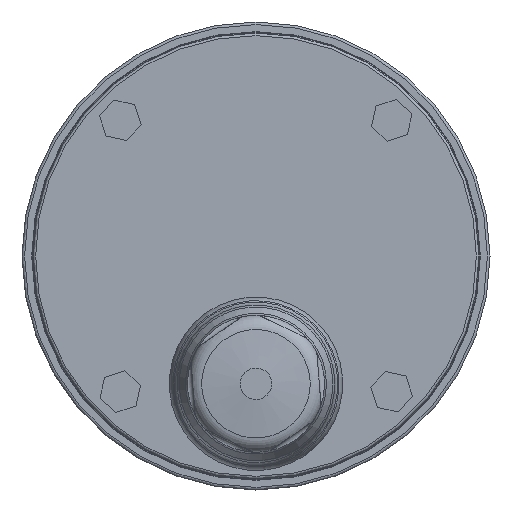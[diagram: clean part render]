
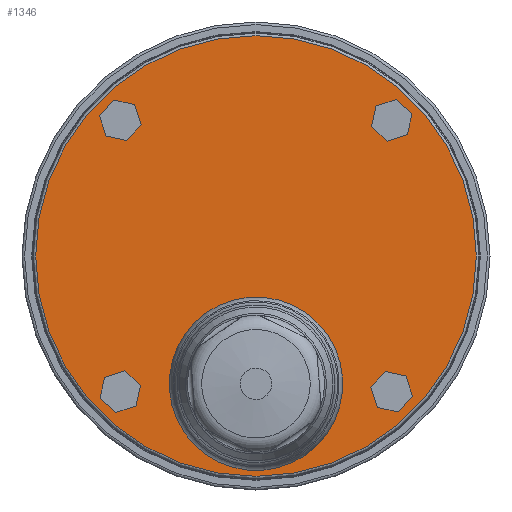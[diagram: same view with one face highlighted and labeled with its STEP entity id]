
A CAD part, front view. The second image highlights one B-rep face of the part: STEP entity #1346.
In plain terms, the highlighted planar face has unit normal (0, -1, 0).
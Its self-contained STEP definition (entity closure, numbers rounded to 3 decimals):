
#151=CARTESIAN_POINT('',(10.,41.245,-24.3));
#152=VERTEX_POINT('',#151);
#153=CARTESIAN_POINT('',(0.,41.245,-24.3));
#154=DIRECTION('',(0.0,1.0,0.0));
#155=DIRECTION('',(1.0,0.0,0.0));
#156=AXIS2_PLACEMENT_3D('',#153,#154,#155);
#157=CIRCLE('',#156,10.0);
#158=EDGE_CURVE('',#152,#152,#157,.T.);
#198=CARTESIAN_POINT('',(27.07,41.245,-29.649));
#199=VERTEX_POINT('',#198);
#206=CARTESIAN_POINT('',(29.765,41.245,-26.638));
#207=VERTEX_POINT('',#206);
#208=CARTESIAN_POINT('',(29.765,41.245,-26.638));
#209=DIRECTION('',(-0.667,0.0,-0.745));
#210=VECTOR('',#209,4.041);
#211=LINE('',#208,#210);
#212=EDGE_CURVE('',#207,#199,#211,.T.);
#236=CARTESIAN_POINT('',(23.114,41.245,-28.821));
#237=VERTEX_POINT('',#236);
#244=CARTESIAN_POINT('',(27.07,41.245,-29.649));
#245=DIRECTION('',(-0.979,0.0,0.205));
#246=VECTOR('',#245,4.041);
#247=LINE('',#244,#246);
#248=EDGE_CURVE('',#199,#237,#247,.T.);
#267=CARTESIAN_POINT('',(21.854,41.245,-24.981));
#268=VERTEX_POINT('',#267);
#275=CARTESIAN_POINT('',(23.114,41.245,-28.821));
#276=DIRECTION('',(-0.312,0.0,0.95));
#277=VECTOR('',#276,4.041);
#278=LINE('',#275,#277);
#279=EDGE_CURVE('',#237,#268,#278,.T.);
#298=CARTESIAN_POINT('',(24.549,41.245,-21.97));
#299=VERTEX_POINT('',#298);
#306=CARTESIAN_POINT('',(21.854,41.245,-24.981));
#307=DIRECTION('',(0.667,0.0,0.745));
#308=VECTOR('',#307,4.041);
#309=LINE('',#306,#308);
#310=EDGE_CURVE('',#268,#299,#309,.T.);
#329=CARTESIAN_POINT('',(28.505,41.245,-22.798));
#330=VERTEX_POINT('',#329);
#337=CARTESIAN_POINT('',(24.549,41.245,-21.97));
#338=DIRECTION('',(0.979,0.0,-0.205));
#339=VECTOR('',#338,4.041);
#340=LINE('',#337,#339);
#341=EDGE_CURVE('',#299,#330,#340,.T.);
#359=CARTESIAN_POINT('',(28.505,41.245,-22.798));
#360=DIRECTION('',(0.312,0.0,-0.95));
#361=VECTOR('',#360,4.041);
#362=LINE('',#359,#361);
#363=EDGE_CURVE('',#330,#207,#362,.T.);
#398=CARTESIAN_POINT('',(-29.649,41.245,-27.07));
#399=VERTEX_POINT('',#398);
#406=CARTESIAN_POINT('',(-26.638,41.245,-29.765));
#407=VERTEX_POINT('',#406);
#408=CARTESIAN_POINT('',(-26.638,41.245,-29.765));
#409=DIRECTION('',(-0.745,0.0,0.667));
#410=VECTOR('',#409,4.041);
#411=LINE('',#408,#410);
#412=EDGE_CURVE('',#407,#399,#411,.T.);
#436=CARTESIAN_POINT('',(-28.821,41.245,-23.114));
#437=VERTEX_POINT('',#436);
#444=CARTESIAN_POINT('',(-29.649,41.245,-27.07));
#445=DIRECTION('',(0.205,0.0,0.979));
#446=VECTOR('',#445,4.041);
#447=LINE('',#444,#446);
#448=EDGE_CURVE('',#399,#437,#447,.T.);
#467=CARTESIAN_POINT('',(-24.981,41.245,-21.854));
#468=VERTEX_POINT('',#467);
#475=CARTESIAN_POINT('',(-28.821,41.245,-23.114));
#476=DIRECTION('',(0.95,0.0,0.312));
#477=VECTOR('',#476,4.041);
#478=LINE('',#475,#477);
#479=EDGE_CURVE('',#437,#468,#478,.T.);
#498=CARTESIAN_POINT('',(-21.97,41.245,-24.549));
#499=VERTEX_POINT('',#498);
#506=CARTESIAN_POINT('',(-24.981,41.245,-21.854));
#507=DIRECTION('',(0.745,0.0,-0.667));
#508=VECTOR('',#507,4.041);
#509=LINE('',#506,#508);
#510=EDGE_CURVE('',#468,#499,#509,.T.);
#529=CARTESIAN_POINT('',(-22.798,41.245,-28.505));
#530=VERTEX_POINT('',#529);
#537=CARTESIAN_POINT('',(-21.97,41.245,-24.549));
#538=DIRECTION('',(-0.205,0.0,-0.979));
#539=VECTOR('',#538,4.041);
#540=LINE('',#537,#539);
#541=EDGE_CURVE('',#499,#530,#540,.T.);
#559=CARTESIAN_POINT('',(-22.798,41.245,-28.505));
#560=DIRECTION('',(-0.95,0.0,-0.312));
#561=VECTOR('',#560,4.041);
#562=LINE('',#559,#561);
#563=EDGE_CURVE('',#530,#407,#562,.T.);
#598=CARTESIAN_POINT('',(-27.07,41.245,29.649));
#599=VERTEX_POINT('',#598);
#606=CARTESIAN_POINT('',(-29.765,41.245,26.638));
#607=VERTEX_POINT('',#606);
#608=CARTESIAN_POINT('',(-29.765,41.245,26.638));
#609=DIRECTION('',(0.667,0.0,0.745));
#610=VECTOR('',#609,4.041);
#611=LINE('',#608,#610);
#612=EDGE_CURVE('',#607,#599,#611,.T.);
#636=CARTESIAN_POINT('',(-23.114,41.245,28.821));
#637=VERTEX_POINT('',#636);
#644=CARTESIAN_POINT('',(-27.07,41.245,29.649));
#645=DIRECTION('',(0.979,0.0,-0.205));
#646=VECTOR('',#645,4.041);
#647=LINE('',#644,#646);
#648=EDGE_CURVE('',#599,#637,#647,.T.);
#667=CARTESIAN_POINT('',(-21.854,41.245,24.981));
#668=VERTEX_POINT('',#667);
#675=CARTESIAN_POINT('',(-23.114,41.245,28.821));
#676=DIRECTION('',(0.312,0.0,-0.95));
#677=VECTOR('',#676,4.041);
#678=LINE('',#675,#677);
#679=EDGE_CURVE('',#637,#668,#678,.T.);
#698=CARTESIAN_POINT('',(-24.549,41.245,21.97));
#699=VERTEX_POINT('',#698);
#706=CARTESIAN_POINT('',(-21.854,41.245,24.981));
#707=DIRECTION('',(-0.667,0.0,-0.745));
#708=VECTOR('',#707,4.041);
#709=LINE('',#706,#708);
#710=EDGE_CURVE('',#668,#699,#709,.T.);
#729=CARTESIAN_POINT('',(-28.505,41.245,22.798));
#730=VERTEX_POINT('',#729);
#737=CARTESIAN_POINT('',(-24.549,41.245,21.97));
#738=DIRECTION('',(-0.979,0.0,0.205));
#739=VECTOR('',#738,4.041);
#740=LINE('',#737,#739);
#741=EDGE_CURVE('',#699,#730,#740,.T.);
#759=CARTESIAN_POINT('',(-28.505,41.245,22.798));
#760=DIRECTION('',(-0.312,0.0,0.95));
#761=VECTOR('',#760,4.041);
#762=LINE('',#759,#761);
#763=EDGE_CURVE('',#730,#607,#762,.T.);
#798=CARTESIAN_POINT('',(29.649,41.245,27.07));
#799=VERTEX_POINT('',#798);
#806=CARTESIAN_POINT('',(26.638,41.245,29.765));
#807=VERTEX_POINT('',#806);
#808=CARTESIAN_POINT('',(26.638,41.245,29.765));
#809=DIRECTION('',(0.745,0.0,-0.667));
#810=VECTOR('',#809,4.041);
#811=LINE('',#808,#810);
#812=EDGE_CURVE('',#807,#799,#811,.T.);
#836=CARTESIAN_POINT('',(28.821,41.245,23.114));
#837=VERTEX_POINT('',#836);
#844=CARTESIAN_POINT('',(29.649,41.245,27.07));
#845=DIRECTION('',(-0.205,0.0,-0.979));
#846=VECTOR('',#845,4.041);
#847=LINE('',#844,#846);
#848=EDGE_CURVE('',#799,#837,#847,.T.);
#867=CARTESIAN_POINT('',(24.981,41.245,21.854));
#868=VERTEX_POINT('',#867);
#875=CARTESIAN_POINT('',(28.821,41.245,23.114));
#876=DIRECTION('',(-0.95,0.0,-0.312));
#877=VECTOR('',#876,4.041);
#878=LINE('',#875,#877);
#879=EDGE_CURVE('',#837,#868,#878,.T.);
#898=CARTESIAN_POINT('',(21.97,41.245,24.549));
#899=VERTEX_POINT('',#898);
#906=CARTESIAN_POINT('',(24.981,41.245,21.854));
#907=DIRECTION('',(-0.745,0.0,0.667));
#908=VECTOR('',#907,4.041);
#909=LINE('',#906,#908);
#910=EDGE_CURVE('',#868,#899,#909,.T.);
#929=CARTESIAN_POINT('',(22.798,41.245,28.505));
#930=VERTEX_POINT('',#929);
#937=CARTESIAN_POINT('',(21.97,41.245,24.549));
#938=DIRECTION('',(0.205,0.0,0.979));
#939=VECTOR('',#938,4.041);
#940=LINE('',#937,#939);
#941=EDGE_CURVE('',#899,#930,#940,.T.);
#959=CARTESIAN_POINT('',(22.798,41.245,28.505));
#960=DIRECTION('',(0.95,0.0,0.312));
#961=VECTOR('',#960,4.041);
#962=LINE('',#959,#961);
#963=EDGE_CURVE('',#930,#807,#962,.T.);
#1288=CARTESIAN_POINT('',(41.9,41.245,0.0));
#1289=VERTEX_POINT('',#1288);
#1290=CARTESIAN_POINT('',(0.0,41.245,0.0));
#1291=DIRECTION('',(0.0,-1.0,0.0));
#1292=DIRECTION('',(1.0,0.0,0.0));
#1293=AXIS2_PLACEMENT_3D('',#1290,#1291,#1292);
#1294=CIRCLE('',#1293,41.9);
#1295=EDGE_CURVE('',#1289,#1289,#1294,.T.);
#1303=CARTESIAN_POINT('',(20.95,41.245,0.0));
#1304=DIRECTION('',(0.0,-1.0,0.0));
#1305=DIRECTION('',(0.0,0.0,-1.0));
#1306=AXIS2_PLACEMENT_3D('',#1303,#1304,#1305);
#1307=PLANE('',#1306);
#1308=ORIENTED_EDGE('',*,*,#1295,.T.);
#1309=EDGE_LOOP('',(#1308));
#1310=FACE_OUTER_BOUND('',#1309,.T.);
#1311=ORIENTED_EDGE('',*,*,#158,.T.);
#1312=EDGE_LOOP('',(#1311));
#1313=FACE_BOUND('',#1312,.T.);
#1314=ORIENTED_EDGE('',*,*,#212,.T.);
#1315=ORIENTED_EDGE('',*,*,#248,.T.);
#1316=ORIENTED_EDGE('',*,*,#279,.T.);
#1317=ORIENTED_EDGE('',*,*,#310,.T.);
#1318=ORIENTED_EDGE('',*,*,#341,.T.);
#1319=ORIENTED_EDGE('',*,*,#363,.T.);
#1320=EDGE_LOOP('',(#1314,#1315,#1316,#1317,#1318,#1319));
#1321=FACE_BOUND('',#1320,.T.);
#1322=ORIENTED_EDGE('',*,*,#412,.T.);
#1323=ORIENTED_EDGE('',*,*,#448,.T.);
#1324=ORIENTED_EDGE('',*,*,#479,.T.);
#1325=ORIENTED_EDGE('',*,*,#510,.T.);
#1326=ORIENTED_EDGE('',*,*,#541,.T.);
#1327=ORIENTED_EDGE('',*,*,#563,.T.);
#1328=EDGE_LOOP('',(#1322,#1323,#1324,#1325,#1326,#1327));
#1329=FACE_BOUND('',#1328,.T.);
#1330=ORIENTED_EDGE('',*,*,#612,.T.);
#1331=ORIENTED_EDGE('',*,*,#648,.T.);
#1332=ORIENTED_EDGE('',*,*,#679,.T.);
#1333=ORIENTED_EDGE('',*,*,#710,.T.);
#1334=ORIENTED_EDGE('',*,*,#741,.T.);
#1335=ORIENTED_EDGE('',*,*,#763,.T.);
#1336=EDGE_LOOP('',(#1330,#1331,#1332,#1333,#1334,#1335));
#1337=FACE_BOUND('',#1336,.T.);
#1338=ORIENTED_EDGE('',*,*,#812,.T.);
#1339=ORIENTED_EDGE('',*,*,#848,.T.);
#1340=ORIENTED_EDGE('',*,*,#879,.T.);
#1341=ORIENTED_EDGE('',*,*,#910,.T.);
#1342=ORIENTED_EDGE('',*,*,#941,.T.);
#1343=ORIENTED_EDGE('',*,*,#963,.T.);
#1344=EDGE_LOOP('',(#1338,#1339,#1340,#1341,#1342,#1343));
#1345=FACE_BOUND('',#1344,.T.);
#1346=ADVANCED_FACE('',(#1310,#1313,#1321,#1329,#1337,#1345),#1307,.T.);
